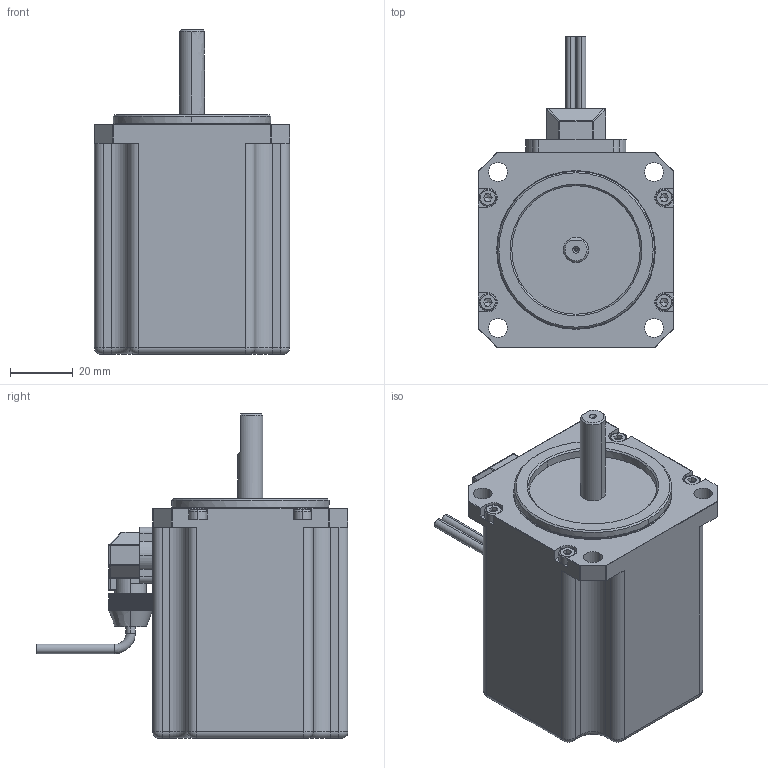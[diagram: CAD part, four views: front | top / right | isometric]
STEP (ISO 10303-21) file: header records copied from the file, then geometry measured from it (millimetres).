
FILE_DESCRIPTION (( 'STEP AP203' ), '1' );
FILE_NAME ('NCA30064-T.STEP', '2018-07-17T05:18:51', ( 'xt256.com' ), ( 'xt256.com' ), 'SwSTEP 2.0', 'SolidWorks 2016', '' );
FILE_SCHEMA (( 'CONFIG_CONTROL_DESIGN' ));
Length unit declared in the file: millimetre
Products named in the file (2): NCA30064-T-prt1; NCA30064-T
Assembly tree (1 placements, depth 2):
  NCA30064-T
    NCA30064-T-prt1
Bounding box: 62 x 99 x 103 mm (x, y, z)
Volume: 254822 mm3; surface area: 30892 mm2
Topology: 2 solids, 2 shells, 673 faces, 2205 edges, 1540 vertices
Faces by surface type: cylinder 415, plane 161, bspline 54, torus 22, cone 12, sphere 9
Entity records: 29885 total; most frequent: CARTESIAN_POINT 12475, ORIENTED_EDGE 4380, DIRECTION 2634, EDGE_CURVE 2190, VERTEX_POINT 1540, B_SPLINE_CURVE_WITH_KNOTS 967, AXIS2_PLACEMENT_3D 926, LINE 782
